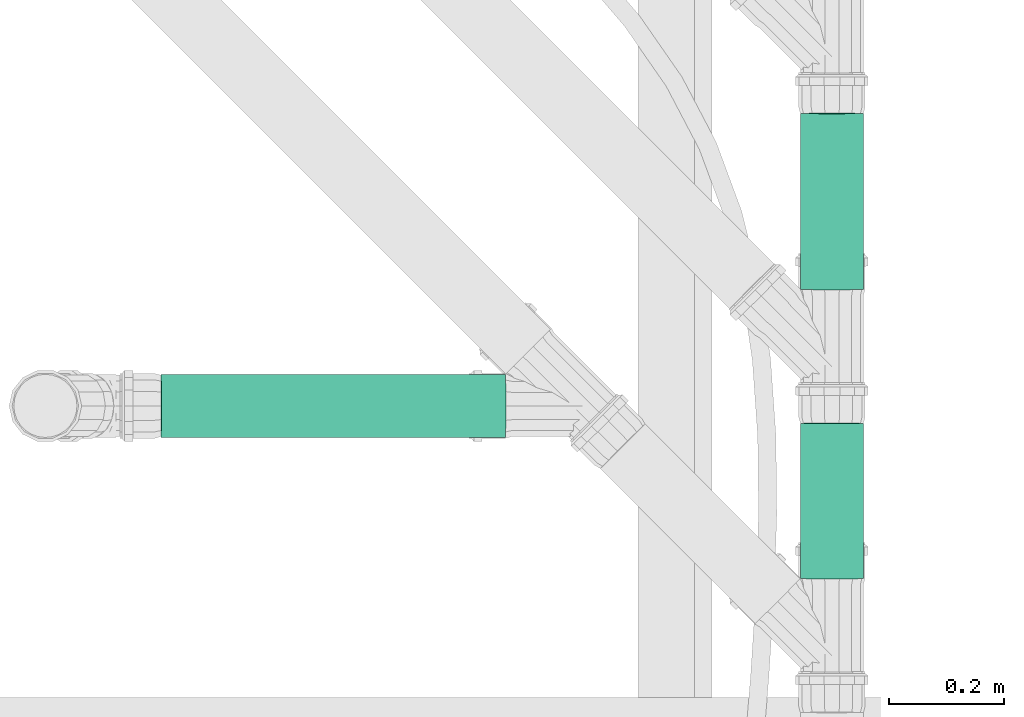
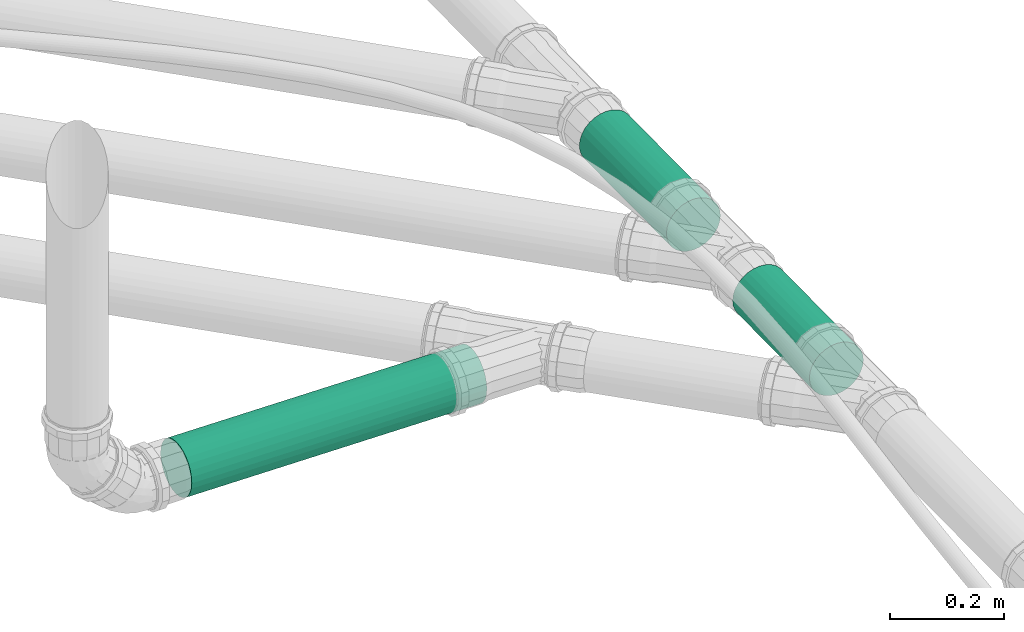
# One storey, part 9 of 18: 3 pipe segments.
"""IFC4 building model written with IfcOpenShell, lengths in centimetres."""

import ifcopenshell
import ifcopenshell.guid

model = None  # the IFC model being written
_history = None  # IfcOwnerHistory: only IFC2X3 demands one
_inside = {}  # id of a spatial element -> (the spatial element, [elements in it])
_under = {}  # id of a project, library or spatial element -> (it, [spatial elements below it])
_declared = {}  # id of a project -> (the project, [libraries it declares])
_typed = {}  # id of a type object -> (the type object, [elements of that type])
_made_of = {}  # id of a material, layer set ... -> (it, [elements and type objects made of it])


def new_model(schema):
    """Start an empty IFC model of exactly this schema.

    Asked for "IFC4X3", IfcOpenShell would pick the latest addendum, in which some entities
    have other attributes; the version numbers below select the first issue.
    IFC2X3 requires an IfcOwnerHistory on every rooted entity: one is made here for all.
    """
    global model, _history
    if schema == "IFC4X3":
        model = ifcopenshell.file(schema_version=(4, 3, 0, 0))
    else:
        model = ifcopenshell.file(schema=schema)
    _inside.clear()
    _under.clear()
    _declared.clear()
    _typed.clear()
    _made_of.clear()
    _history = None
    if model.schema == "IFC2X3":
        org = make("IfcOrganization", Name="unknown")
        user = make(
            "IfcPersonAndOrganization",
            ThePerson=make("IfcPerson", FamilyName="unknown"),
            TheOrganization=org,
        )
        app = make(
            "IfcApplication",
            ApplicationDeveloper=org,
            Version="unknown",
            ApplicationFullName="unknown",
            ApplicationIdentifier="unknown",
        )
        _history = make(
            "IfcOwnerHistory",
            OwningUser=user,
            OwningApplication=app,
            ChangeAction="ADDED",
            CreationDate=0,
        )
    return model


def make(cls, **values):
    """One entity of the class cls with the attributes given. An attribute that is None is left unset."""
    return model.create_entity(
        cls, **{name: value for name, value in values.items() if value is not None}
    )


def entity(cls, *values):
    """Any entity or typed value of the class cls, its attributes in the order of the schema. None: left unset."""
    e = model.create_entity(cls)
    for i, value in enumerate(values):
        if value is not None:
            e[i] = value
    return e


def rooted(cls, **values):
    """An entity with a GlobalId (a new one), such as an element, a storey or a relation."""
    return make(cls, GlobalId=ifcopenshell.guid.new(), OwnerHistory=_history, **values)


def si_unit(unit_type, name, prefix=None):
    """IfcSIUnit, for example si_unit("LENGTHUNIT", "METRE", prefix="MILLI")."""
    return make("IfcSIUnit", UnitType=unit_type, Prefix=prefix, Name=name)


def converted_unit(unit_type, name, factor, base, dimensions=None, offset=None):
    """IfcConversionBasedUnit, such as the inch: factor (a typed value) times the base unit."""
    return make(
        "IfcConversionBasedUnit"
        if offset is None
        else "IfcConversionBasedUnitWithOffset",
        ConversionOffset=offset,
        Dimensions=None
        if dimensions is None
        else entity("IfcDimensionalExponents", *dimensions),
        UnitType=unit_type,
        Name=name,
        ConversionFactor=make(
            "IfcMeasureWithUnit", ValueComponent=factor, UnitComponent=base
        ),
    )


def derived_unit(unit_type, elements):
    """IfcDerivedUnit: a product of units, each with its exponent."""
    return make(
        "IfcDerivedUnit",
        Elements=[
            make("IfcDerivedUnitElement", Unit=unit, Exponent=power)
            for unit, power in elements
        ],
        UnitType=unit_type,
    )


def assignment(units):
    """IfcUnitAssignment: the units of a project."""
    return None if units is None else make("IfcUnitAssignment", Units=units)


def point(xyz):
    """IfcCartesianPoint."""
    return None if xyz is None else make("IfcCartesianPoint", Coordinates=xyz)


def direction(xyz):
    """IfcDirection."""
    return None if xyz is None else make("IfcDirection", DirectionRatios=xyz)


def frame(location, z_axis=None, x_axis=None):
    """IfcAxis2Placement3D, a coordinate frame: its origin and axes. An axis left out is left unset."""
    return make(
        "IfcAxis2Placement3D",
        Location=point(location),
        Axis=direction(z_axis),
        RefDirection=direction(x_axis),
    )


def origin():
    """The frame at (0, 0, 0) with its axes left unset."""
    return frame((0.0, 0.0, 0.0))


def place(relative_to, where):
    """IfcLocalPlacement: puts the frame where relative to a parent placement (None: the world)."""
    return make(
        "IfcLocalPlacement", PlacementRelTo=relative_to, RelativePlacement=where
    )


def context(
    kind, dimensions, precision=None, world=None, true_north=None, identifier=None
):
    """IfcGeometricRepresentationContext, for example the 3D "Model" context."""
    return make(
        "IfcGeometricRepresentationContext",
        ContextIdentifier=identifier,
        ContextType=kind,
        CoordinateSpaceDimension=dimensions,
        Precision=precision,
        WorldCoordinateSystem=world,
        TrueNorth=true_north,
    )


def subcontext(parent, identifier, kind, view, scale=None):
    """IfcGeometricRepresentationSubContext, for example "Body" below "Model"."""
    return make(
        "IfcGeometricRepresentationSubContext",
        ContextIdentifier=identifier,
        ContextType=kind,
        ParentContext=parent,
        TargetScale=scale,
        TargetView=view,
    )


def project(units=None, contexts=None):
    """IfcProject with its units and contexts."""
    return rooted(
        "IfcProject",
        Name="project",
        RepresentationContexts=contexts,
        UnitsInContext=assignment(units),
    )


def spatial(cls, under=None, at=None, **own):
    """A site, building, storey or space (cls), placed at a placement, below another one or the project."""
    s = rooted(cls, ObjectPlacement=at, **own)
    if under is not None:
        _under.setdefault(under.id(), (under, []))[1].append(s)
    return s


def point_list(points):
    """IfcCartesianPointList2D or 3D."""
    cls = (
        "IfcCartesianPointList2D" if len(points[0]) == 2 else "IfcCartesianPointList3D"
    )
    return make(cls, CoordList=points)


def arc(*indices):
    """IfcArcIndex: an arc through three numbered points of an indexed curve."""
    return model.create_entity("IfcArcIndex", indices)


def indexed_curve(points, segments=None, self_intersect=None):
    """IfcIndexedPolyCurve: lines and arcs through numbered points (the first is 1)."""
    return make(
        "IfcIndexedPolyCurve",
        Points=point_list(points),
        Segments=segments,
        SelfIntersect=self_intersect,
    )


def outline(outer, holes=None, kind="AREA"):
    """IfcArbitraryClosedProfileDef: a profile drawn as a closed curve; with holes, ...WithVoids."""
    if holes is None:
        return make("IfcArbitraryClosedProfileDef", ProfileType=kind, OuterCurve=outer)
    return make(
        "IfcArbitraryProfileDefWithVoids",
        ProfileType=kind,
        OuterCurve=outer,
        InnerCurves=holes,
    )


def extrude(swept, where, along, depth):
    """IfcExtrudedAreaSolid: the profile swept, set in the frame where, extruded along a direction by depth."""
    return make(
        "IfcExtrudedAreaSolid",
        SweptArea=swept,
        Position=where,
        ExtrudedDirection=direction(along),
        Depth=depth,
    )


def shape(context_of_items, identifier, shape_type, items):
    """IfcShapeRepresentation: the items that make up one representation, for example the "Body"."""
    return make(
        "IfcShapeRepresentation",
        ContextOfItems=context_of_items,
        RepresentationIdentifier=identifier,
        RepresentationType=shape_type,
        Items=items,
    )


def made_of(thing, what):
    """Note that an element or type object is made of a material, layer set ...; save() writes the relation."""
    if what is not None:
        _made_of.setdefault(what.id(), (what, []))[1].append(thing)
    return thing


def type_object(cls, material=None, **own):
    """A type object (cls), such as IfcWallType, which elements share."""
    return made_of(rooted(cls, **own), material)


def element(
    cls,
    number,
    at=None,
    inside=None,
    cuts=None,
    type_object=None,
    material=None,
    context=None,
    identifier="Body",
    shape_type=None,
    held_by="IfcProductDefinitionShape",
    body=None,
    shapes=None,
    **own,
):
    """One element of the class cls, such as IfcWall. Its Tag is "e" and its number.

    at: its placement. inside: the storey or other place that contains it. cuts: it is an
    opening in that element (IfcRelVoidsElement). A single representation is given by context,
    identifier, shape_type and body (its items); several are given by shapes. held_by: the class
    of the entity that holds the representations. save() writes the other relations.
    """
    e = rooted(cls, Tag="e%d" % number, ObjectPlacement=at, **own)
    if body is not None:
        shapes = [shape(context, identifier, shape_type, body)]
    if shapes is not None:
        e.Representation = make(held_by, Representations=shapes)
    if inside is not None:
        _inside.setdefault(inside.id(), (inside, []))[1].append(e)
    if cuts is not None:
        rooted(
            "IfcRelVoidsElement", RelatingBuildingElement=cuts, RelatedOpeningElement=e
        )
    if type_object is not None:
        _typed.setdefault(type_object.id(), (type_object, []))[1].append(e)
    return made_of(e, material)


def aggregate(whole, parts):
    """IfcRelAggregates: a whole, such as a stair, and the parts it consists of."""
    return rooted("IfcRelAggregates", RelatingObject=whole, RelatedObjects=parts)


def save(model, path):
    """Write the relations noted so far, then the file.

    IfcRelAggregates (storeys below a building ...), IfcRelContainedInSpatialStructure (elements
    in a storey), IfcRelDefinesByType, IfcRelAssociatesMaterial and IfcRelDeclares: one each for
    every whole, place, type object, material and project.
    """
    for whole, parts in _under.values():
        aggregate(whole, parts)
    for where, things in _inside.values():
        rooted(
            "IfcRelContainedInSpatialStructure",
            RelatedElements=things,
            RelatingStructure=where,
        )
    for kind, things in _typed.values():
        rooted("IfcRelDefinesByType", RelatedObjects=things, RelatingType=kind)
    for what, things in _made_of.values():
        rooted("IfcRelAssociatesMaterial", RelatedObjects=things, RelatingMaterial=what)
    for by, libraries in _declared.values():
        rooted("IfcRelDeclares", RelatingContext=by, RelatedDefinitions=libraries)
    model.write(path)


model = new_model("IFC4")

# Units and contexts
model_context = context("Model", 3, precision=0.001, world=origin(), true_north=direction((6.123233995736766e-17, 1.0)))
body_context = subcontext(model_context, "Body", "Model", "MODEL_VIEW")
ifc_project = project(units=[si_unit("LENGTHUNIT", "METRE", prefix="CENTI"), si_unit("AREAUNIT", "SQUARE_METRE"), converted_unit("PLANEANGLEUNIT", "DEGREE", entity("IfcPlaneAngleMeasure", 0.017453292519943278), si_unit("PLANEANGLEUNIT", "RADIAN"), dimensions=[0, 0, 0, 0, 0, 0, 0]), si_unit("VOLUMEUNIT", "CUBIC_METRE"), derived_unit("THERMALTRANSMITTANCEUNIT", [(si_unit("MASSUNIT", "GRAM", prefix="KILO"), 1), (si_unit("THERMODYNAMICTEMPERATUREUNIT", "KELVIN"), -1), (si_unit("TIMEUNIT", "SECOND"), -3)])], contexts=[model_context])

# Site, building, storey
site_placement = place(None, frame((-0.003347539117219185, 0.0, 0.0)))
site = spatial("IfcSite", under=ifc_project, at=site_placement, Name="Default", CompositionType="ELEMENT")
building_placement = place(site_placement, origin())
building = spatial("IfcBuilding", under=site, at=building_placement, CompositionType="ELEMENT")
storey_placement = place(building_placement, frame((0.0, 0.0, -30.0)))
storey = spatial("IfcBuildingStorey", under=building, at=storey_placement, Name="Fondation B.O.", CompositionType="ELEMENT", Elevation=-30.0)

# Pipe segments
pipe_segment_type = type_object("IfcPipeSegmentType", Name="Canalisation:Valsir PP3", PredefinedType="NOTDEFINED")
pipe_segment_1_placement = place(storey_placement, origin())
element("IfcPipeSegment", 1, at=pipe_segment_1_placement, inside=storey, type_object=pipe_segment_type, Name="Canalisation:Valsir PP3", ObjectType="Canalisation:Valsir PP3", PredefinedType="NOTDEFINED", context=body_context, shape_type="SweptSolid", body=[
    extrude(outline(indexed_curve([(5.499999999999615, -1.3535162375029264e-14), (3.8890872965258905, 3.8890872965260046), (0.0, 5.499999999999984), (-3.8890872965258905, 3.8890872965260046), (-5.499999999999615, 1.3535162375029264e-14), (-3.8890872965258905, -3.8890872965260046), (0.0, -5.500000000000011), (3.8890872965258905, -3.889087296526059)], segments=[arc(1, 2, 3), arc(3, 4, 5), arc(5, 6, 7), arc(7, 8, 1)], self_intersect=False)), frame((-5887.812062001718, -2234.756637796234, -39.61877546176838), z_axis=(0.0, 0.9999500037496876, 0.00999950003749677), x_axis=(1.0, 0.0, 0.0)), (0.0, 0.0, 1.0), 30.688390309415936),
])
pipe_segment_2_placement = place(storey_placement, origin())
element("IfcPipeSegment", 2, at=pipe_segment_2_placement, inside=storey, type_object=pipe_segment_type, Name="Canalisation:Valsir PP3", ObjectType="Canalisation:Valsir PP3", PredefinedType="NOTDEFINED", context=body_context, shape_type="SweptSolid", body=[
    extrude(outline(indexed_curve([(5.500000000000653, -4.196662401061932e-14), (3.889087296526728, 3.8890872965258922), (1.1473504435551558e-12, 5.5), (-3.889087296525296, 3.8890872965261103), (-5.49999999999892, 1.4896278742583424e-14), (-3.8890872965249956, -3.8890872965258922), (5.852369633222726e-13, -5.5), (3.8890872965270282, -3.8890872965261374)], segments=[arc(1, 2, 3), arc(3, 4, 5), arc(5, 6, 7), arc(7, 8, 1)], self_intersect=False)), frame((-5887.812055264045, -2285.1497451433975, -40.121079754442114), z_axis=(-2.4905810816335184e-07, 0.999950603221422, 0.00993937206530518), x_axis=(-1.0, -2.490704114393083e-07, 0.0)), (0.0, 0.0, 1.0), 27.052610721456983),
])
pipe_segment_3_placement = place(storey_placement, origin())
element("IfcPipeSegment", 3, at=pipe_segment_3_placement, inside=storey, type_object=pipe_segment_type, Name="Canalisation:Valsir PP3", ObjectType="Canalisation:Valsir PP3", PredefinedType="NOTDEFINED", context=body_context, shape_type="SweptSolid", body=[
    extrude(outline(indexed_curve([(5.500000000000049, -1.353463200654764e-14), (3.8890872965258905, 3.8890872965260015), (0.0, 5.499999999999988), (-3.8890872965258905, 3.8890872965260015), (-5.500000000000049, 1.353463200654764e-14), (-3.8890872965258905, -3.8890872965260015), (0.0, -5.500000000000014), (3.8890872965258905, -3.889087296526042)], segments=[arc(1, 2, 3), arc(3, 4, 5), arc(5, 6, 7), arc(7, 8, 1)], self_intersect=False)), frame((-6004.7629960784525, -2255.0460145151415, -38.70384806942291), z_axis=(0.9999108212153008, 0.0, -0.013354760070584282), x_axis=(0.0, -1.0, 0.0)), (0.0, 0.0, 1.0), 60.0539056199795),
])

save(model, "model.ifc")
